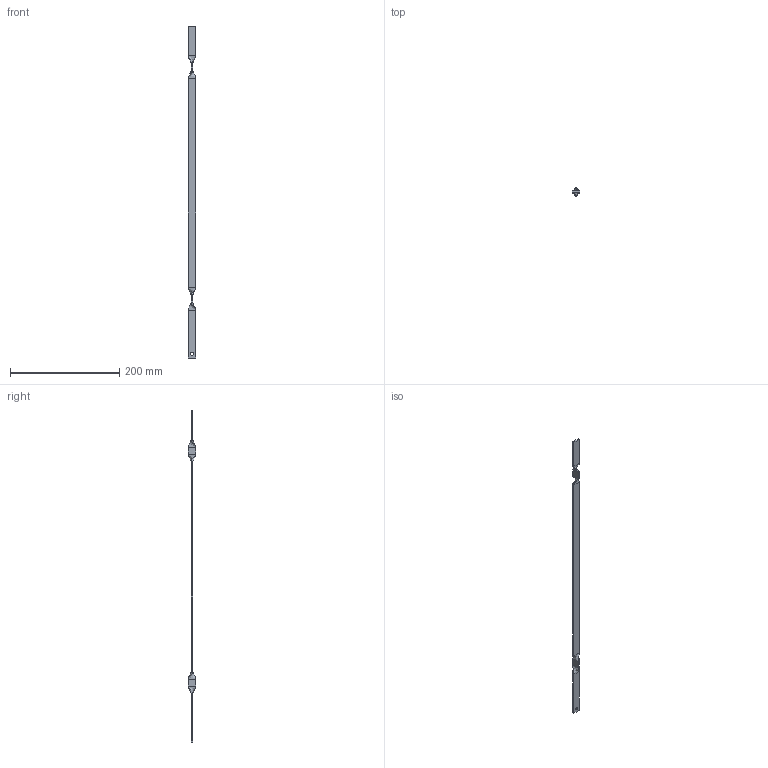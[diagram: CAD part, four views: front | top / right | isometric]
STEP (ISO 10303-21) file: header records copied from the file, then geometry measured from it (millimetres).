
FILE_DESCRIPTION (( 'STEP AP214' ), '1' );
FILE_NAME ('P290-601.STEP', '2016-08-18T09:19:20', ( 'RST-Dolba' ), ( '' ), 'SwSTEP 2.0', 'SolidWorks 2015', '' );
FILE_SCHEMA (( 'AUTOMOTIVE_DESIGN' ));
Length unit declared in the file: millimetre
Products named in the file (1): P290-601
Bounding box: 14 x 14 x 608.5 mm (x, y, z)
Volume: 24854.1 mm3; surface area: 20598.6 mm2
Topology: 1 solids, 1 shells, 40 faces, 82 edges, 44 vertices
Faces by surface type: plane 22, bspline 16, cylinder 2
Entity records: 1304 total; most frequent: CARTESIAN_POINT 519, ORIENTED_EDGE 164, DIRECTION 120, EDGE_CURVE 82, VECTOR 62, LINE 62, VERTEX_POINT 44, EDGE_LOOP 42
